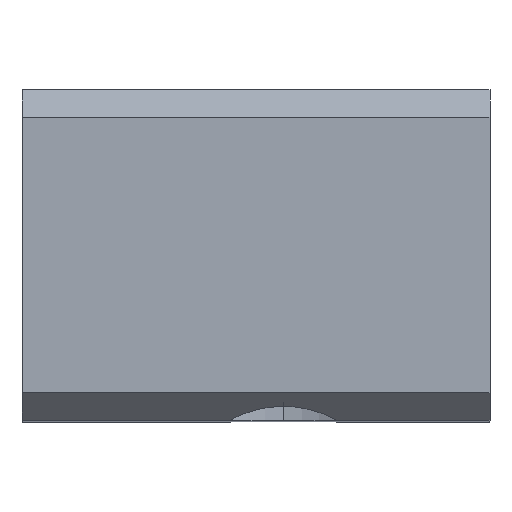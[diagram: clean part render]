
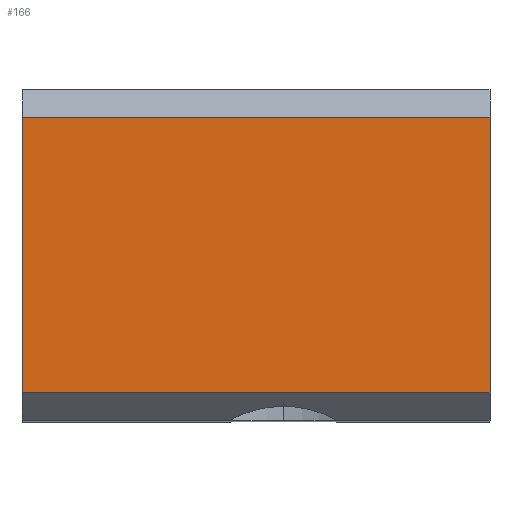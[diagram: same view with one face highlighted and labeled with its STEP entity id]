
A CAD part, top view. The second image highlights one B-rep face of the part: STEP entity #166.
In plain terms, the highlighted planar face has unit normal (0, 0, 1).
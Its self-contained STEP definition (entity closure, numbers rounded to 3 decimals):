
#3 = CARTESIAN_POINT ( 'NONE',  ( -8.5, -5., 22. ) ) ;
#5 = VERTEX_POINT ( 'NONE', #898 ) ;
#66 = LINE ( 'NONE', #311, #885 ) ;
#68 = DIRECTION ( 'NONE',  ( 1., 0., 0. ) ) ;
#124 = EDGE_CURVE ( 'NONE', #517, #993, #66, .T. ) ;
#130 = CARTESIAN_POINT ( 'NONE',  ( -8.5, 5., 22. ) ) ;
#148 = EDGE_CURVE ( 'NONE', #694, #5, #932, .T. ) ;
#166 = ADVANCED_FACE ( 'NONE', ( #948 ), #318, .F. ) ;
#227 = AXIS2_PLACEMENT_3D ( 'NONE', #431, #258, #965 ) ;
#251 = EDGE_CURVE ( 'NONE', #5, #993, #374, .T. ) ;
#258 = DIRECTION ( 'NONE',  ( 0., 0., -1. ) ) ;
#311 = CARTESIAN_POINT ( 'NONE',  ( 8.5, 6., 22. ) ) ;
#318 = PLANE ( 'NONE',  #227 ) ;
#342 = DIRECTION ( 'NONE',  ( 0., -1., 0. ) ) ;
#374 = LINE ( 'NONE', #3, #809 ) ;
#431 = CARTESIAN_POINT ( 'NONE',  ( -8.5, 6., 22. ) ) ;
#436 = DIRECTION ( 'NONE',  ( -1., 0., 0. ) ) ;
#517 = VERTEX_POINT ( 'NONE', #543 ) ;
#523 = DIRECTION ( 'NONE',  ( 0., -1., 0. ) ) ;
#543 = CARTESIAN_POINT ( 'NONE',  ( 8.5, 5., 22. ) ) ;
#549 = VECTOR ( 'NONE', #523, 1000. ) ;
#615 = VECTOR ( 'NONE', #436, 1000. ) ;
#619 = ORIENTED_EDGE ( 'NONE', *, *, #124, .F. ) ;
#632 = CARTESIAN_POINT ( 'NONE',  ( -8.5, 5., 22. ) ) ;
#633 = CARTESIAN_POINT ( 'NONE',  ( -8.5, 6., 22. ) ) ;
#635 = ORIENTED_EDGE ( 'NONE', *, *, #251, .T. ) ;
#676 = ORIENTED_EDGE ( 'NONE', *, *, #847, .T. ) ;
#694 = VERTEX_POINT ( 'NONE', #130 ) ;
#746 = ORIENTED_EDGE ( 'NONE', *, *, #148, .T. ) ;
#799 = LINE ( 'NONE', #632, #615 ) ;
#809 = VECTOR ( 'NONE', #68, 1000. ) ;
#847 = EDGE_CURVE ( 'NONE', #517, #694, #799, .T. ) ;
#885 = VECTOR ( 'NONE', #342, 1000. ) ;
#898 = CARTESIAN_POINT ( 'NONE',  ( -8.5, -5., 22. ) ) ;
#932 = LINE ( 'NONE', #633, #549 ) ;
#945 = EDGE_LOOP ( 'NONE', ( #746, #635, #619, #676 ) ) ;
#948 = FACE_OUTER_BOUND ( 'NONE', #945, .T. ) ;
#965 = DIRECTION ( 'NONE',  ( -1., 0., 0. ) ) ;
#984 = CARTESIAN_POINT ( 'NONE',  ( 8.5, -5., 22. ) ) ;
#993 = VERTEX_POINT ( 'NONE', #984 ) ;
